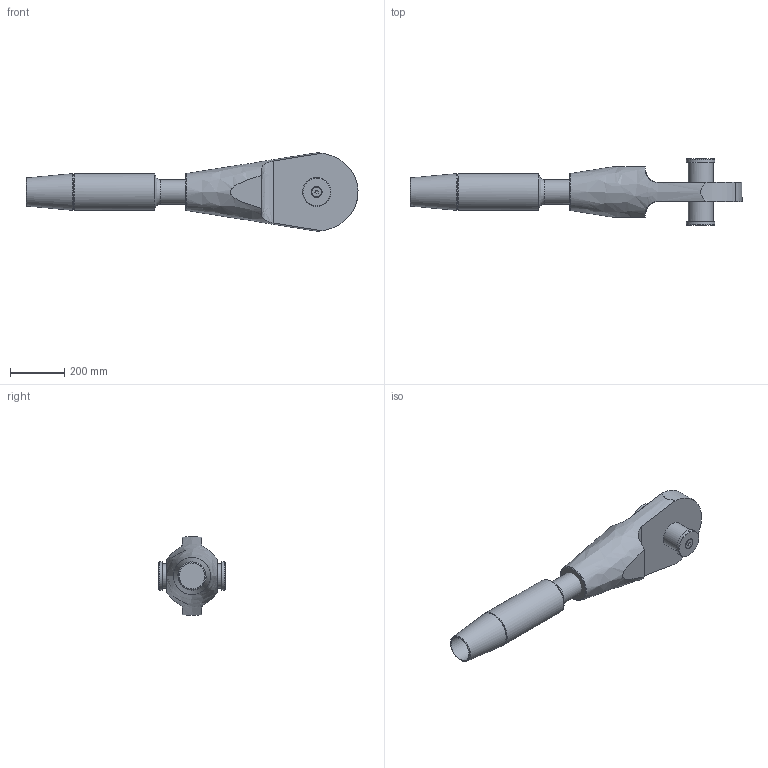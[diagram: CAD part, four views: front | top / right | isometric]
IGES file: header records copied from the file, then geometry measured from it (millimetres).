
Global section: file name: 520-090-OES-ADA; native system: Autodesk Inventor 2020; preprocessor: unknown; author: Administrator; date: 20201008.095820; units: millimetre
Bounding box: 1219.32 x 246 x 287.52 mm (x, y, z)
Volume: 21542942.9 mm3; surface area: 911308.2 mm2
Topology: 8 solids, 8 shells, 76 faces, 186 edges, 128 vertices
Faces by surface type: bspline 76
